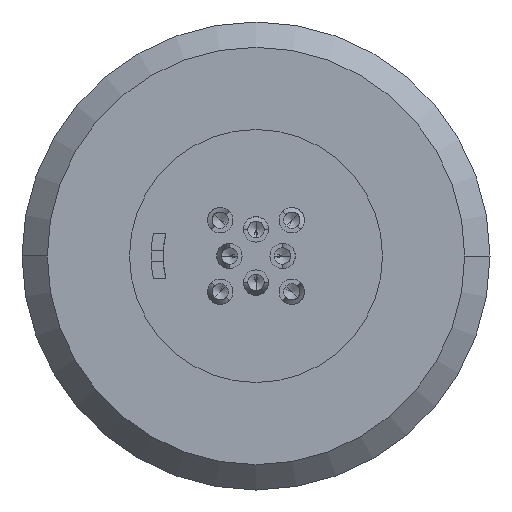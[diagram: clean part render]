
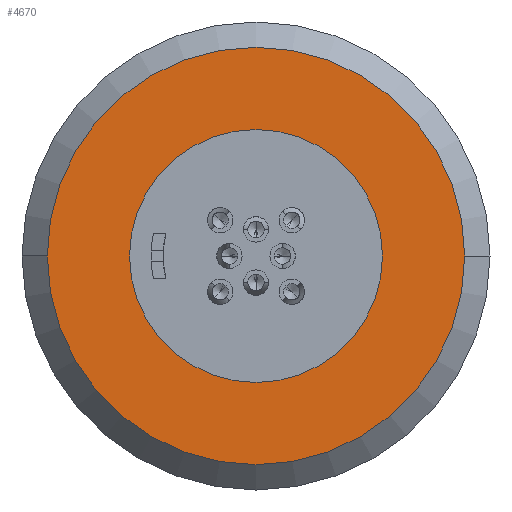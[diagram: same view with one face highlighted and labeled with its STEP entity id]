
A CAD part, left-side view. The second image highlights one B-rep face of the part: STEP entity #4670.
In plain terms, the highlighted planar face has unit normal (-1, 0, 0).
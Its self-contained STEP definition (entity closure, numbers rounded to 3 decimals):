
#505=CARTESIAN_POINT('',(-10.5,0.,0.));
#506=DIRECTION('',(1.,0.,0.));
#507=DIRECTION('',(0.,1.,0.));
#508=AXIS2_PLACEMENT_3D('',#505,#506,#507);
#510=CARTESIAN_POINT('',(-10.5,0.,0.));
#511=DIRECTION('',(1.,0.,0.));
#512=DIRECTION('',(0.,0.,1.));
#513=AXIS2_PLACEMENT_3D('',#510,#511,#512);
#515=CARTESIAN_POINT('',(-10.5,0.,0.));
#516=DIRECTION('',(1.,0.,0.));
#517=DIRECTION('',(0.,-1.,0.));
#518=AXIS2_PLACEMENT_3D('',#515,#516,#517);
#520=CARTESIAN_POINT('',(-10.5,0.,0.));
#521=DIRECTION('',(1.,0.,0.));
#522=DIRECTION('',(0.,0.,-1.));
#523=AXIS2_PLACEMENT_3D('',#520,#521,#522);
#525=CARTESIAN_POINT('',(-10.5,0.,0.));
#526=DIRECTION('',(-1.,0.,0.));
#527=DIRECTION('',(0.,-1.,0.));
#528=AXIS2_PLACEMENT_3D('',#525,#526,#527);
#530=CARTESIAN_POINT('',(-10.5,0.,0.));
#531=DIRECTION('',(-1.,0.,0.));
#532=DIRECTION('',(0.,1.,0.));
#533=AXIS2_PLACEMENT_3D('',#530,#531,#532);
#3443=CARTESIAN_POINT('',(-10.5,-8.25,0.));
#3444=VERTEX_POINT('',#3443);
#3445=CARTESIAN_POINT('',(-10.5,8.25,0.));
#3446=CARTESIAN_POINT('',(-10.5,0.,8.25));
#3447=VERTEX_POINT('',#3445);
#3448=VERTEX_POINT('',#3446);
#3451=CARTESIAN_POINT('',(-10.5,0.,-8.25));
#3452=VERTEX_POINT('',#3451);
#3453=CARTESIAN_POINT('',(-10.5,-5.,0.));
#3454=CARTESIAN_POINT('',(-10.5,5.,0.));
#3455=VERTEX_POINT('',#3453);
#3456=VERTEX_POINT('',#3454);
#4653=CARTESIAN_POINT('',(-10.5,0.,0.));
#4654=DIRECTION('',(-1.,0.,0.));
#4655=DIRECTION('',(0.,-1.,0.));
#4656=AXIS2_PLACEMENT_3D('',#4653,#4654,#4655);
#4657=PLANE('',#4656);
#4658=ORIENTED_EDGE('',*,*,#4594,.T.);
#4659=ORIENTED_EDGE('',*,*,#4592,.T.);
#4660=ORIENTED_EDGE('',*,*,#4620,.T.);
#4661=ORIENTED_EDGE('',*,*,#4618,.T.);
#4662=EDGE_LOOP('',(#4658,#4659,#4660,#4661));
#4663=FACE_OUTER_BOUND('',#4662,.F.);
#4665=ORIENTED_EDGE('',*,*,#4664,.T.);
#4667=ORIENTED_EDGE('',*,*,#4666,.T.);
#4668=EDGE_LOOP('',(#4665,#4667));
#4669=FACE_BOUND('',#4668,.F.);
#509=CIRCLE('',#508,8.25);
#514=CIRCLE('',#513,8.25);
#519=CIRCLE('',#518,8.25);
#524=CIRCLE('',#523,8.25);
#529=CIRCLE('',#528,5.);
#534=CIRCLE('',#533,5.);
#4592=EDGE_CURVE('',#3448,#3444,#514,.T.);
#4594=EDGE_CURVE('',#3447,#3448,#509,.T.);
#4618=EDGE_CURVE('',#3452,#3447,#524,.T.);
#4620=EDGE_CURVE('',#3444,#3452,#519,.T.);
#4664=EDGE_CURVE('',#3455,#3456,#529,.T.);
#4666=EDGE_CURVE('',#3456,#3455,#534,.T.);
#4670=ADVANCED_FACE('',(#4663,#4669),#4657,.T.);
